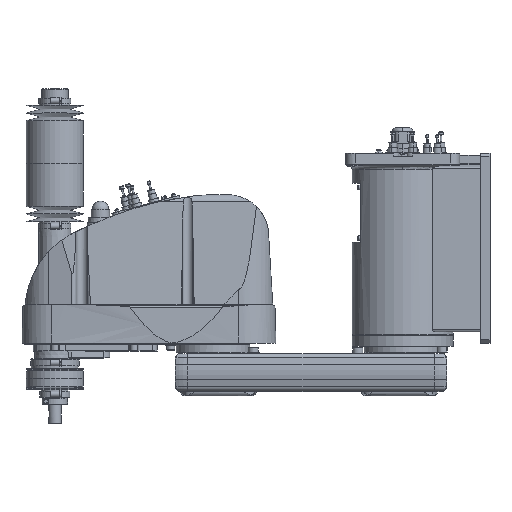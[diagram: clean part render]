
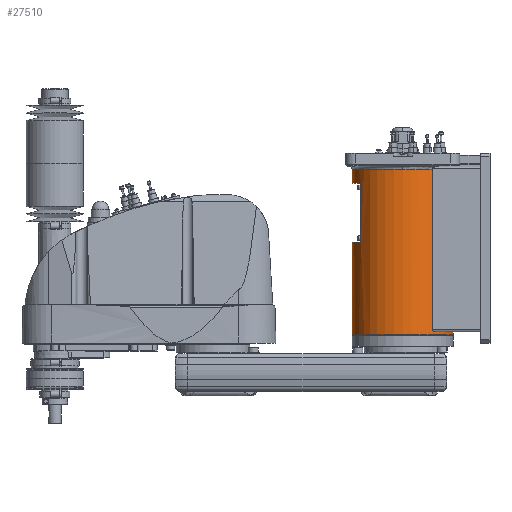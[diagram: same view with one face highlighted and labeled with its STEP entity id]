
A CAD part, top view. The second image highlights one B-rep face of the part: STEP entity #27510.
In plain terms, the highlighted cylindrical face has radius 80 mm (diameter 160 mm), a partial arc.
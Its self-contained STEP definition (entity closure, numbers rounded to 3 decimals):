
#9504 = EDGE_CURVE( '', #26420, #17402, #27966, .T. );
#10680 = VERTEX_POINT( '', #29280 );
#12284 = EDGE_CURVE( '', #13486, #26420, #31056, .T. );
#12550 = EDGE_CURVE( '', #17372, #22628, #31348, .T. );
#13486 = VERTEX_POINT( '', #32400 );
#15022 = VERTEX_POINT( '', #34098 );
#15818 = VERTEX_POINT( '', #34975 );
#16010 = EDGE_CURVE( '', #24738, #22628, #35188, .T. );
#17116 = VERTEX_POINT( '', #36420 );
#17372 = VERTEX_POINT( '', #36704 );
#17402 = VERTEX_POINT( '', #36736 );
#18482 = EDGE_CURVE( '', #22712, #10680, #37945, .T. );
#19972 = EDGE_CURVE( '', #22038, #17372, #39633, .T. );
#20146 = EDGE_CURVE( '', #17402, #22712, #39829, .T. );
#21158 = EDGE_CURVE( '', #17116, #15818, #40952, .T. );
#21430 = EDGE_CURVE( '', #15022, #22038, #41256, .T. );
#21512 = EDGE_CURVE( '', #10680, #15022, #41344, .T. );
#22038 = VERTEX_POINT( '', #41929 );
#22310 = EDGE_CURVE( '', #15818, #13486, #42227, .T. );
#22628 = VERTEX_POINT( '', #42579 );
#22712 = VERTEX_POINT( '', #42672 );
#24738 = VERTEX_POINT( '', #44942 );
#26420 = VERTEX_POINT( '', #46836 );
#26832 = EDGE_CURVE( '', #17116, #24738, #47304, .T. );
#27510 = ADVANCED_FACE( '', ( #48056 ), #48057, .T. );
#27966 = CIRCLE( '', #48704, 80. );
#29280 = CARTESIAN_POINT( '', ( 80., 30., 0. ) );
#31056 = LINE( '', #53573, #53574 );
#31348 = LINE( '', #54026, #54027 );
#32400 = CARTESIAN_POINT( '', ( -66., 269., 45.211 ) );
#34098 = CARTESIAN_POINT( '', ( 80., 34.5, 0. ) );
#34975 = CARTESIAN_POINT( '', ( -80., 269., 0. ) );
#35188 = CIRCLE( '', #59834, 80. );
#36420 = CARTESIAN_POINT( '', ( -80., 291.5, 0. ) );
#36704 = CARTESIAN_POINT( '', ( 46.637, 37.5, 65. ) );
#36736 = CARTESIAN_POINT( '', ( -80., 176., 0. ) );
#37945 = CIRCLE( '', #64326, 80. );
#39633 = B_SPLINE_CURVE_WITH_KNOTS( '', 3, ( #66858, #66859, #66860, #66861, #66862, #66863, #66864, #66865, #66866, #66867, #66868, #66869, #66870, #66871, #66872, #66873 ), .UNSPECIFIED., .F., .F., ( 4, 2, 2, 2, 2, 2, 2, 4 ), ( -6.06, -5.11, -4.16, -2.26, -1.695, -1.13, -0.565, 0. ), .UNSPECIFIED. );
#39829 = LINE( '', #67145, #67146 );
#40952 = LINE( '', #68871, #68872 );
#41256 = CIRCLE( '', #69308, 80. );
#41344 = LINE( '', #69426, #69427 );
#41929 = CARTESIAN_POINT( '', ( 50.557, 34.5, 62. ) );
#42227 = CIRCLE( '', #70776, 80. );
#42579 = CARTESIAN_POINT( '', ( 46.637, 291.5, 65. ) );
#42672 = CARTESIAN_POINT( '', ( -80., 30., 0. ) );
#44942 = CARTESIAN_POINT( '', ( 0., 291.5, 80. ) );
#46836 = CARTESIAN_POINT( '', ( -66., 176., 45.211 ) );
#47304 = CIRCLE( '', #78658, 80. );
#48056 = FACE_OUTER_BOUND( '', #79752, .T. );
#48057 = CYLINDRICAL_SURFACE( '', #79753, 80. );
#48704 = AXIS2_PLACEMENT_3D( '', #80330, #80331, #80332 );
#53573 = CARTESIAN_POINT( '', ( -66., 222.5, 45.211 ) );
#53574 = VECTOR( '', #83835, 1. );
#54026 = CARTESIAN_POINT( '', ( 46.637, 164.5, 65. ) );
#54027 = VECTOR( '', #84145, 1. );
#59834 = AXIS2_PLACEMENT_3D( '', #88447, #88448, #88449 );
#64326 = AXIS2_PLACEMENT_3D( '', #91634, #91635, #91636 );
#66858 = CARTESIAN_POINT( '', ( 50.557, 34.5, 62. ) );
#66859 = CARTESIAN_POINT( '', ( 50.312, 34.5, 62.2 ) );
#66860 = CARTESIAN_POINT( '', ( 50.054, 34.52, 62.407 ) );
#66861 = CARTESIAN_POINT( '', ( 49.533, 34.607, 62.822 ) );
#66862 = CARTESIAN_POINT( '', ( 49.269, 34.674, 63.029 ) );
#66863 = CARTESIAN_POINT( '', ( 48.491, 34.945, 63.632 ) );
#66864 = CARTESIAN_POINT( '', ( 47.991, 35.221, 64.009 ) );
#66865 = CARTESIAN_POINT( '', ( 47.455, 35.701, 64.405 ) );
#66866 = CARTESIAN_POINT( '', ( 47.333, 35.827, 64.495 ) );
#66867 = CARTESIAN_POINT( '', ( 47.106, 36.105, 64.661 ) );
#66868 = CARTESIAN_POINT( '', ( 47.002, 36.258, 64.736 ) );
#66869 = CARTESIAN_POINT( '', ( 46.828, 36.585, 64.863 ) );
#66870 = CARTESIAN_POINT( '', ( 46.758, 36.761, 64.913 ) );
#66871 = CARTESIAN_POINT( '', ( 46.662, 37.124, 64.982 ) );
#66872 = CARTESIAN_POINT( '', ( 46.637, 37.312, 65. ) );
#66873 = CARTESIAN_POINT( '', ( 46.637, 37.5, 65. ) );
#67145 = CARTESIAN_POINT( '', ( -80., 160.75, 0. ) );
#67146 = VECTOR( '', #93925, 1. );
#68871 = CARTESIAN_POINT( '', ( -80., 160.75, 0. ) );
#68872 = VECTOR( '', #95249, 1. );
#69308 = AXIS2_PLACEMENT_3D( '', #95572, #95573, #95574 );
#69426 = CARTESIAN_POINT( '', ( 80., 160.75, 0. ) );
#69427 = VECTOR( '', #95651, 1. );
#70776 = AXIS2_PLACEMENT_3D( '', #96700, #96701, #96702 );
#78658 = AXIS2_PLACEMENT_3D( '', #102792, #102793, #102794 );
#79752 = EDGE_LOOP( '', ( #103658, #103659, #103660, #103661, #103662, #103663, #103664, #103665, #103666, #103667, #103668, #103669 ) );
#79753 = AXIS2_PLACEMENT_3D( '', #103670, #103671, #103672 );
#80330 = CARTESIAN_POINT( '', ( 0., 176., 0. ) );
#80331 = DIRECTION( '', ( 0., -1., 0. ) );
#80332 = DIRECTION( '', ( 1., 0., 0. ) );
#83835 = DIRECTION( '', ( 0., -1., 0. ) );
#84145 = DIRECTION( '', ( 0., 1., 0. ) );
#88447 = CARTESIAN_POINT( '', ( 0., 291.5, 0. ) );
#88448 = DIRECTION( '', ( 0., 1., 0. ) );
#88449 = DIRECTION( '', ( 1., 0., 0. ) );
#91634 = CARTESIAN_POINT( '', ( 0., 30., 0. ) );
#91635 = DIRECTION( '', ( 0., 1., 0. ) );
#91636 = DIRECTION( '', ( 1., 0., 0. ) );
#93925 = DIRECTION( '', ( 0., -1., 0. ) );
#95249 = DIRECTION( '', ( 0., -1., 0. ) );
#95572 = CARTESIAN_POINT( '', ( 0., 34.5, 0. ) );
#95573 = DIRECTION( '', ( 0., -1., 0. ) );
#95574 = DIRECTION( '', ( 1., 0., 0. ) );
#95651 = DIRECTION( '', ( 0., 1., 0. ) );
#96700 = CARTESIAN_POINT( '', ( 0., 269., 0. ) );
#96701 = DIRECTION( '', ( 0., 1., 0. ) );
#96702 = DIRECTION( '', ( 1., 0., 0. ) );
#102792 = CARTESIAN_POINT( '', ( 0., 291.5, 0. ) );
#102793 = DIRECTION( '', ( 0., 1., 0. ) );
#102794 = DIRECTION( '', ( 1., 0., 0. ) );
#103658 = ORIENTED_EDGE( '', *, *, #21512, .T. );
#103659 = ORIENTED_EDGE( '', *, *, #21430, .T. );
#103660 = ORIENTED_EDGE( '', *, *, #19972, .T. );
#103661 = ORIENTED_EDGE( '', *, *, #12550, .T. );
#103662 = ORIENTED_EDGE( '', *, *, #16010, .F. );
#103663 = ORIENTED_EDGE( '', *, *, #26832, .F. );
#103664 = ORIENTED_EDGE( '', *, *, #21158, .T. );
#103665 = ORIENTED_EDGE( '', *, *, #22310, .T. );
#103666 = ORIENTED_EDGE( '', *, *, #12284, .T. );
#103667 = ORIENTED_EDGE( '', *, *, #9504, .T. );
#103668 = ORIENTED_EDGE( '', *, *, #20146, .T. );
#103669 = ORIENTED_EDGE( '', *, *, #18482, .T. );
#103670 = CARTESIAN_POINT( '', ( 0., 160.75, 0. ) );
#103671 = DIRECTION( '', ( 0., -1., 0. ) );
#103672 = DIRECTION( '', ( 1., 0., 0. ) );
